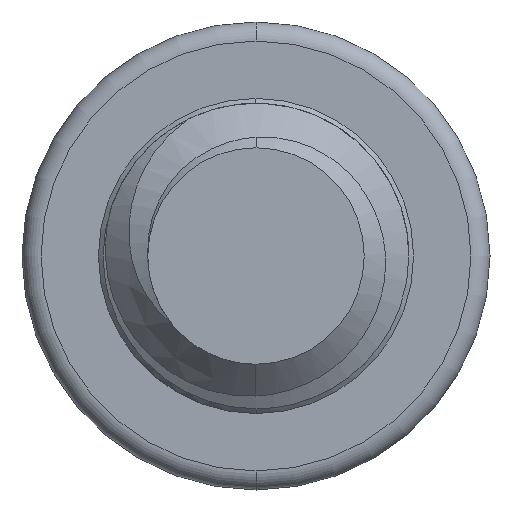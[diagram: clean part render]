
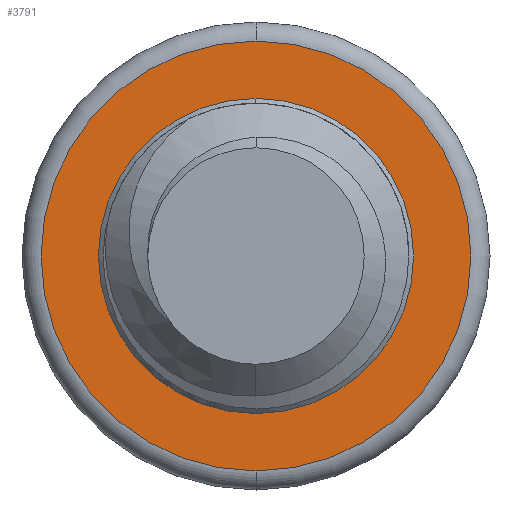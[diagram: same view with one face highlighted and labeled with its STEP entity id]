
A CAD part, left-side view. The second image highlights one B-rep face of the part: STEP entity #3791.
In plain terms, the highlighted planar face has unit normal (-1, 0, 0).
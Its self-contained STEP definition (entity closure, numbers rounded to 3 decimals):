
#44 = DIRECTION ( 'NONE',  ( 0., 0., -1. ) ) ;
#57 = CARTESIAN_POINT ( 'NONE',  ( 4., 0., 0. ) ) ;
#191 = EDGE_CURVE ( 'NONE', #4153, #1563, #4042, .T. ) ;
#292 = EDGE_CURVE ( 'NONE', #1563, #4153, #3312, .T. ) ;
#375 = DIRECTION ( 'NONE',  ( 1., 0., 0. ) ) ;
#427 = DIRECTION ( 'NONE',  ( -1., 0., 0. ) ) ;
#639 = DIRECTION ( 'NONE',  ( 0., 0., -1. ) ) ;
#728 = CARTESIAN_POINT ( 'NONE',  ( 4., 0., -1.125 ) ) ;
#773 = AXIS2_PLACEMENT_3D ( 'NONE', #57, #375, #2668 ) ;
#934 = DIRECTION ( 'NONE',  ( -1., 0., 0. ) ) ;
#1045 = EDGE_LOOP ( 'NONE', ( #1847, #2873 ) ) ;
#1060 = CIRCLE ( 'NONE', #1785, 0.825 ) ;
#1244 = CARTESIAN_POINT ( 'NONE',  ( 4., 0., 1.125 ) ) ;
#1257 = VERTEX_POINT ( 'NONE', #3318 ) ;
#1301 = EDGE_LOOP ( 'NONE', ( #2681, #2779 ) ) ;
#1320 = CARTESIAN_POINT ( 'NONE',  ( 4., 0., 0. ) ) ;
#1563 = VERTEX_POINT ( 'NONE', #728 ) ;
#1785 = AXIS2_PLACEMENT_3D ( 'NONE', #3971, #1992, #44 ) ;
#1847 = ORIENTED_EDGE ( 'NONE', *, *, #2485, .F. ) ;
#1992 = DIRECTION ( 'NONE',  ( -1., 0., 0. ) ) ;
#2007 = PLANE ( 'NONE',  #773 ) ;
#2032 = AXIS2_PLACEMENT_3D ( 'NONE', #1320, #3239, #639 ) ;
#2386 = DIRECTION ( 'NONE',  ( 0., 0., -1. ) ) ;
#2485 = EDGE_CURVE ( 'NONE', #3769, #1257, #1060, .T. ) ;
#2668 = DIRECTION ( 'NONE',  ( 0., 0., -1. ) ) ;
#2681 = ORIENTED_EDGE ( 'NONE', *, *, #292, .T. ) ;
#2715 = CARTESIAN_POINT ( 'NONE',  ( 4., 0., 0. ) ) ;
#2716 = AXIS2_PLACEMENT_3D ( 'NONE', #2905, #934, #3240 ) ;
#2779 = ORIENTED_EDGE ( 'NONE', *, *, #191, .T. ) ;
#2871 = EDGE_CURVE ( 'NONE', #1257, #3769, #2900, .T. ) ;
#2873 = ORIENTED_EDGE ( 'NONE', *, *, #2871, .F. ) ;
#2900 = CIRCLE ( 'NONE', #2716, 0.825 ) ;
#2905 = CARTESIAN_POINT ( 'NONE',  ( 4., 0., 0. ) ) ;
#3239 = DIRECTION ( 'NONE',  ( -1., 0., 0. ) ) ;
#3240 = DIRECTION ( 'NONE',  ( 0., 0., -1. ) ) ;
#3272 = AXIS2_PLACEMENT_3D ( 'NONE', #2715, #427, #2386 ) ;
#3277 = FACE_OUTER_BOUND ( 'NONE', #1301, .T. ) ;
#3312 = CIRCLE ( 'NONE', #3272, 1.125 ) ;
#3318 = CARTESIAN_POINT ( 'NONE',  ( 4., 0., -0.825 ) ) ;
#3385 = FACE_BOUND ( 'NONE', #1045, .T. ) ;
#3769 = VERTEX_POINT ( 'NONE', #3946 ) ;
#3791 = ADVANCED_FACE ( 'NONE', ( #3277, #3385 ), #2007, .F. ) ;
#3946 = CARTESIAN_POINT ( 'NONE',  ( 4., 0., 0.825 ) ) ;
#3971 = CARTESIAN_POINT ( 'NONE',  ( 4., 0., 0. ) ) ;
#4042 = CIRCLE ( 'NONE', #2032, 1.125 ) ;
#4153 = VERTEX_POINT ( 'NONE', #1244 ) ;
